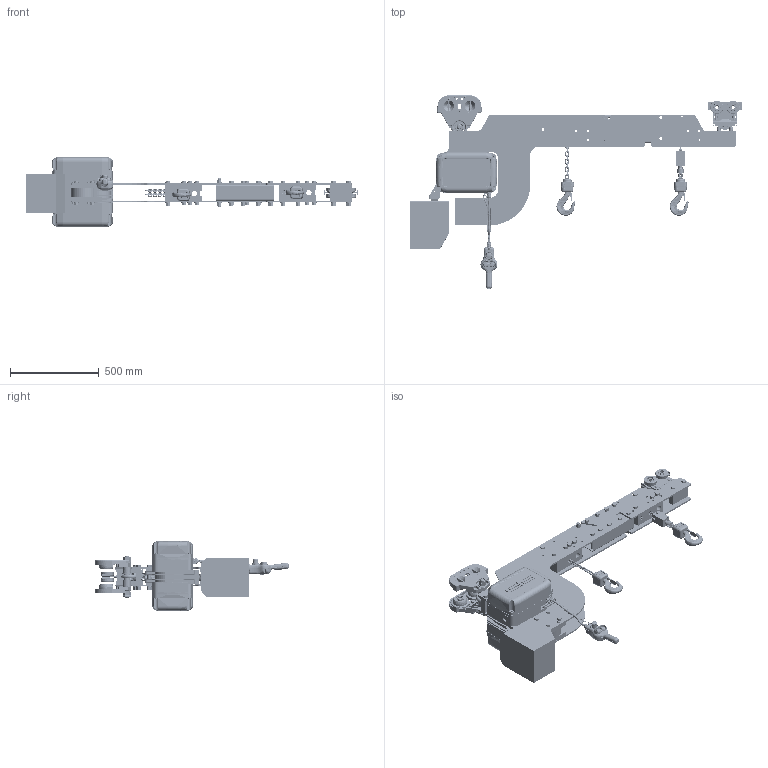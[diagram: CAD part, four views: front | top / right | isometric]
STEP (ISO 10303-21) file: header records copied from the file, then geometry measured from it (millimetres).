
FILE_DESCRIPTION(/* description */ ('Grundausführung'),/* implementation_level */ '2;1');
FILE_NAME(/* name */ 'C:\Users\Gisjst\Desktop\Step dateien\9408_9294_M.stp',/* time_stamp */ '2015-04-14T14:09:54+02:00',/* author */ ('Gisjst'),/* organization */ (''),/* preprocessor_version */ 'ST-DEVELOPER v15.6',/* originating_system */ 'Autodesk Inventor 2015',/* authorisation */ '');
FILE_SCHEMA (('AUTOMOTIVE_DESIGN { 1 0 10303 214 3 1 1 }'));
Products named in the file (34): 9408_9289_M; 9408_9290_M; 9408_9291_M; 9408_9241_M; 9408_9292_M; 9400.9403.M; 9039_1105; 9290.2005.M; 9400.9402.M; M24; 9248_1002_M2; 9248_1008_M; 9031_1577; 24.0; 9248_9265_M; 9248_9264_M; 9248_9266_M; 9306_1019_MA; 5-h8-24-B; 9306_1043_M; 9306_1025_M; 9306_1024_M; 9031_3207; 9031_6001_M; 9306_1018_M3; 6304; 9306_1018_M2; 9306_1020_MA; 9405_9262_M; 9039_0007; 9039_0007_M1; 9408_9293_M; 9408_9294_M
Assembly tree (84 placements, depth 4):
  9408_9294_M
    9408_9289_M
    9408_9290_M
    9408_9291_M
    9408_9241_M
    9408_9292_M
    9400.9402.M
      9400.9403.M
      9039_1105  x2
      9290.2005.M
    M24  x2
    9248_9266_M
      9248_9265_M
        9248_1002_M2
        9248_1008_M  x24
        9031_1577  x2
        24.0  x2
        M24  x2
      9248_9264_M  x2
    9306_1020_MA
      9306_1019_MA  x2
      5-h8-24-B  x2
      9306_1043_M  x2
      9306_1025_M  x2
      9306_1024_M
      9031_3207  x2
      9031_6001_M  x2
      9306_1018_M2  x4
        9306_1018_M3
        6304
    9405_9262_M  x2
    9039_0007_M1  x6
      9039_0007
    9408_9293_M
Bounding box: 1875 x 1092.82 x 393 mm (x, y, z)
Volume: 58069497.5 mm3; surface area: 4598990.2 mm2
Topology: 189 solids, 254 shells, 9367 faces, 23211 edges, 14440 vertices
Faces by surface type: plane 4791, cylinder 2295, bspline 1210, torus 681, cone 210, sphere 180
Full cylindrical faces by diameter (mm): 1.5 x5, 2 x12, 2.5 x10, 2.85 x8, 3 x8, 3.1 x2, 3.2 x4, 3.7 x2, 3.9 x4, 4 x7, 4.134 x1, 4.2 x4, 4.917 x14, 5 x4, 5.5 x2, 6 x11, 6.2 x2, 6.4 x2, 6.5 x4, 7 x104, 7.2 x4, 7.5 x1, 7.99 x1, 8 x6, 8.2 x4, 8.4 x4, 8.5 x4, 8.586 x4, 8.9 x2, 9 x6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
Entity records: 290437 total; most frequent: CARTESIAN_POINT 111354, ORIENTED_EDGE 36676, DIRECTION 35909, EDGE_CURVE 18311, AXIS2_PLACEMENT_3D 12825, VERTEX_POINT 11773, LINE 10259, VECTOR 10259
